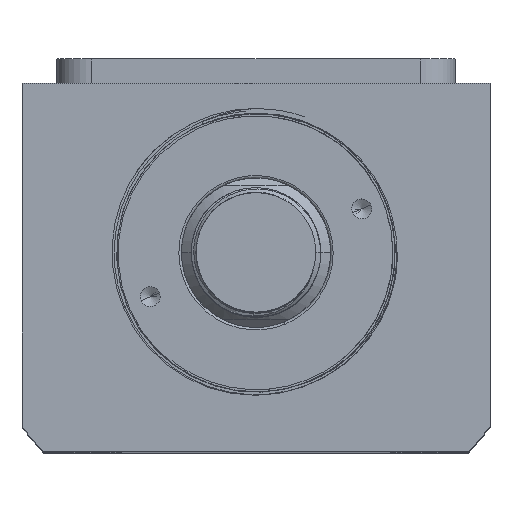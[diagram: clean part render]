
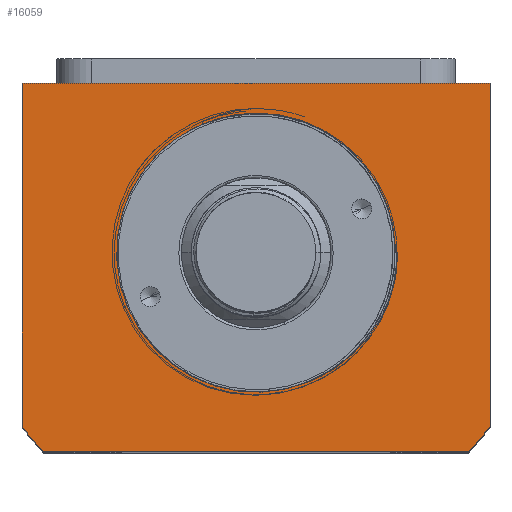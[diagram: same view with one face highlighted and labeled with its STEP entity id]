
A CAD part, top view. The second image highlights one B-rep face of the part: STEP entity #16059.
In plain terms, the highlighted planar face has unit normal (0, 0, 1).
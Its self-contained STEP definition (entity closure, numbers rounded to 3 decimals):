
#239 = VERTEX_POINT ( 'NONE', #2364 ) ;
#792 = DIRECTION ( 'NONE',  ( 0., 0., 1. ) ) ;
#1079 = CARTESIAN_POINT ( 'NONE',  ( 0., 0., 65. ) ) ;
#1133 = VECTOR ( 'NONE', #8052, 1000. ) ;
#1253 = CARTESIAN_POINT ( 'NONE',  ( 28.233, -3.538, 65. ) ) ;
#1319 = CARTESIAN_POINT ( 'NONE',  ( 27.887, -5.628, 65. ) ) ;
#1389 = CARTESIAN_POINT ( 'NONE',  ( 26.163, -10.961, 65. ) ) ;
#1479 = EDGE_CURVE ( 'NONE', #18014, #7432, #5956, .T. ) ;
#1505 = EDGE_CURVE ( 'NONE', #239, #17644, #8516, .T. ) ;
#1550 = DIRECTION ( 'NONE',  ( 0., 0., 1. ) ) ;
#1993 = DIRECTION ( 'NONE',  ( 0., 1., 0. ) ) ;
#2032 = DIRECTION ( 'NONE',  ( -1., 0., 0. ) ) ;
#2364 = CARTESIAN_POINT ( 'NONE',  ( -47., -34.832, 65. ) ) ;
#2620 = EDGE_LOOP ( 'NONE', ( #17999, #14656, #16494, #13771, #6676, #4163 ) ) ;
#2805 = EDGE_LOOP ( 'NONE', ( #8193, #10570, #5542 ) ) ;
#3496 = AXIS2_PLACEMENT_3D ( 'NONE', #14094, #8270, #5211 ) ;
#4141 = CARTESIAN_POINT ( 'NONE',  ( 28.485, -0.71, 65. ) ) ;
#4163 = ORIENTED_EDGE ( 'NONE', *, *, #1479, .T. ) ;
#4250 = CARTESIAN_POINT ( 'NONE',  ( 28.495, 0., 65. ) ) ;
#4275 = CARTESIAN_POINT ( 'NONE',  ( 26.694, -9.657, 65. ) ) ;
#4702 = VERTEX_POINT ( 'NONE', #15782 ) ;
#4757 = CIRCLE ( 'NONE', #8362, 58.5 ) ;
#4946 = CARTESIAN_POINT ( 'NONE',  ( 47., 34., 65. ) ) ;
#5211 = DIRECTION ( 'NONE',  ( 1., 0., 0. ) ) ;
#5503 = FACE_OUTER_BOUND ( 'NONE', #2620, .T. ) ;
#5523 = CARTESIAN_POINT ( 'NONE',  ( -47., -34.832, 65. ) ) ;
#5542 = ORIENTED_EDGE ( 'NONE', *, *, #14137, .T. ) ;
#5692 = AXIS2_PLACEMENT_3D ( 'NONE', #12706, #792, #9892 ) ;
#5909 = EDGE_CURVE ( 'NONE', #4702, #239, #13427, .T. ) ;
#5956 = LINE ( 'NONE', #4946, #9464 ) ;
#6098 = CARTESIAN_POINT ( 'NONE',  ( 22.571, -17.007, 65. ) ) ;
#6622 = VECTOR ( 'NONE', #18118, 1000. ) ;
#6676 = ORIENTED_EDGE ( 'NONE', *, *, #8167, .T. ) ;
#6686 = CIRCLE ( 'NONE', #15810, 28. ) ;
#6729 = CARTESIAN_POINT ( 'NONE',  ( -47., 34., 65. ) ) ;
#7063 = CARTESIAN_POINT ( 'NONE',  ( 42.688, -40., 65. ) ) ;
#7121 = FACE_BOUND ( 'NONE', #2805, .T. ) ;
#7219 = CARTESIAN_POINT ( 'NONE',  ( 47., -34.832, 65. ) ) ;
#7432 = VERTEX_POINT ( 'NONE', #13181 ) ;
#7606 = CARTESIAN_POINT ( 'NONE',  ( 18.667, -21.077, 65. ) ) ;
#8052 = DIRECTION ( 'NONE',  ( -1., 0., 0. ) ) ;
#8167 = EDGE_CURVE ( 'NONE', #14670, #18014, #4757, .T. ) ;
#8193 = ORIENTED_EDGE ( 'NONE', *, *, #13850, .F. ) ;
#8270 = DIRECTION ( 'NONE',  ( 0., 0., 1. ) ) ;
#8362 = AXIS2_PLACEMENT_3D ( 'NONE', #8900, #1550, #13271 ) ;
#8459 = DIRECTION ( 'NONE',  ( 0., -1., 0. ) ) ;
#8516 = CIRCLE ( 'NONE', #3496, 58.5 ) ;
#8860 = CARTESIAN_POINT ( 'NONE',  ( 20.224, -19.631, 65. ) ) ;
#8900 = CARTESIAN_POINT ( 'NONE',  ( 0., 0., 65. ) ) ;
#9099 = CARTESIAN_POINT ( 'NONE',  ( 42.688, -40., 65. ) ) ;
#9216 = EDGE_CURVE ( 'NONE', #17644, #14670, #14597, .T. ) ;
#9464 = VECTOR ( 'NONE', #1993, 1000. ) ;
#9787 = EDGE_CURVE ( 'NONE', #10362, #9997, #10515, .T. ) ;
#9892 = DIRECTION ( 'NONE',  ( 1., 0., 0. ) ) ;
#9997 = VERTEX_POINT ( 'NONE', #16990 ) ;
#10097 = CARTESIAN_POINT ( 'NONE',  ( 28.495, 0., 65. ) ) ;
#10232 = CARTESIAN_POINT ( 'NONE',  ( 28.323, -2.832, 65. ) ) ;
#10356 = CARTESIAN_POINT ( 'NONE',  ( 21.684, -18.094, 65. ) ) ;
#10362 = VERTEX_POINT ( 'NONE', #4250 ) ;
#10443 = VECTOR ( 'NONE', #2032, 1000. ) ;
#10515 = B_SPLINE_CURVE_WITH_KNOTS ( 'NONE', 3,
 ( #10097, #4141, #19266, #10232, #1253, #1319, #11715, #4275, #1389, #17871, #14957, #6098, #10356, #8860, #16529, #7606, #16596, #12027, #13481, #13551, #15021, #16472, #14890, #18128 ),
 .UNSPECIFIED., .F., .F.,
 ( 4, 2, 2, 2, 2, 2, 2, 2, 2, 2, 2, 4 ),
 ( 0., 0.002, 0.004, 0.009, 0.013, 0.017, 0.021, 0.023, 0.026, 0.03, 0.032, 0.034 ),
 .UNSPECIFIED. ) ;
#10570 = ORIENTED_EDGE ( 'NONE', *, *, #9787, .T. ) ;
#11507 = CARTESIAN_POINT ( 'NONE',  ( 0., 0., 65. ) ) ;
#11715 = CARTESIAN_POINT ( 'NONE',  ( 27.555, -6.99, 65. ) ) ;
#12027 = CARTESIAN_POINT ( 'NONE',  ( 16.467, -22.819, 65. ) ) ;
#12060 = LINE ( 'NONE', #11507, #10443 ) ;
#12706 = CARTESIAN_POINT ( 'NONE',  ( 0., 0., 65. ) ) ;
#12731 = VECTOR ( 'NONE', #8459, 1000. ) ;
#13181 = CARTESIAN_POINT ( 'NONE',  ( 47., 34., 65. ) ) ;
#13271 = DIRECTION ( 'NONE',  ( 1., 0., 0. ) ) ;
#13360 = CARTESIAN_POINT ( 'NONE',  ( 28., 0., 65. ) ) ;
#13427 = LINE ( 'NONE', #5523, #12731 ) ;
#13481 = CARTESIAN_POINT ( 'NONE',  ( 15.3, -23.593, 65. ) ) ;
#13551 = CARTESIAN_POINT ( 'NONE',  ( 13.459, -24.624, 65. ) ) ;
#13765 = LINE ( 'NONE', #6729, #1133 ) ;
#13771 = ORIENTED_EDGE ( 'NONE', *, *, #9216, .T. ) ;
#13850 = EDGE_CURVE ( 'NONE', #10362, #18237, #12060, .T. ) ;
#14094 = CARTESIAN_POINT ( 'NONE',  ( 0., 0., 65. ) ) ;
#14137 = EDGE_CURVE ( 'NONE', #9997, #18237, #6686, .T. ) ;
#14597 = LINE ( 'NONE', #9099, #6622 ) ;
#14656 = ORIENTED_EDGE ( 'NONE', *, *, #5909, .T. ) ;
#14670 = VERTEX_POINT ( 'NONE', #7063 ) ;
#14890 = CARTESIAN_POINT ( 'NONE',  ( 10.89, -25.816, 65. ) ) ;
#14957 = CARTESIAN_POINT ( 'NONE',  ( 24.178, -14.712, 65. ) ) ;
#15021 = CARTESIAN_POINT ( 'NONE',  ( 12.831, -24.945, 65. ) ) ;
#15782 = CARTESIAN_POINT ( 'NONE',  ( -47., 34., 65. ) ) ;
#15810 = AXIS2_PLACEMENT_3D ( 'NONE', #1079, #17560, #15841 ) ;
#15841 = DIRECTION ( 'NONE',  ( 1., 0., 0. ) ) ;
#16059 = ADVANCED_FACE ( 'NONE', ( #7121, #5503 ), #17392, .T. ) ;
#16472 = CARTESIAN_POINT ( 'NONE',  ( 11.542, -25.544, 65. ) ) ;
#16494 = ORIENTED_EDGE ( 'NONE', *, *, #1505, .T. ) ;
#16529 = CARTESIAN_POINT ( 'NONE',  ( 19.714, -20.129, 65. ) ) ;
#16596 = CARTESIAN_POINT ( 'NONE',  ( 18.129, -21.529, 65. ) ) ;
#16990 = CARTESIAN_POINT ( 'NONE',  ( 10.232, -26.064, 65. ) ) ;
#17220 = CARTESIAN_POINT ( 'NONE',  ( -42.688, -40., 65. ) ) ;
#17392 = PLANE ( 'NONE',  #5692 ) ;
#17560 = DIRECTION ( 'NONE',  ( 0., 0., -1. ) ) ;
#17644 = VERTEX_POINT ( 'NONE', #17220 ) ;
#17871 = CARTESIAN_POINT ( 'NONE',  ( 24.898, -13.504, 65. ) ) ;
#17999 = ORIENTED_EDGE ( 'NONE', *, *, #18678, .T. ) ;
#18014 = VERTEX_POINT ( 'NONE', #7219 ) ;
#18118 = DIRECTION ( 'NONE',  ( 1., 0., 0. ) ) ;
#18128 = CARTESIAN_POINT ( 'NONE',  ( 10.232, -26.064, 65. ) ) ;
#18237 = VERTEX_POINT ( 'NONE', #13360 ) ;
#18678 = EDGE_CURVE ( 'NONE', #7432, #4702, #13765, .T. ) ;
#19266 = CARTESIAN_POINT ( 'NONE',  ( 28.449, -1.419, 65. ) ) ;
